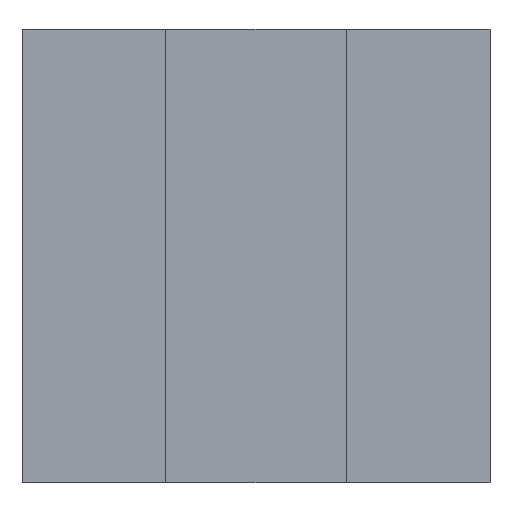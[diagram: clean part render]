
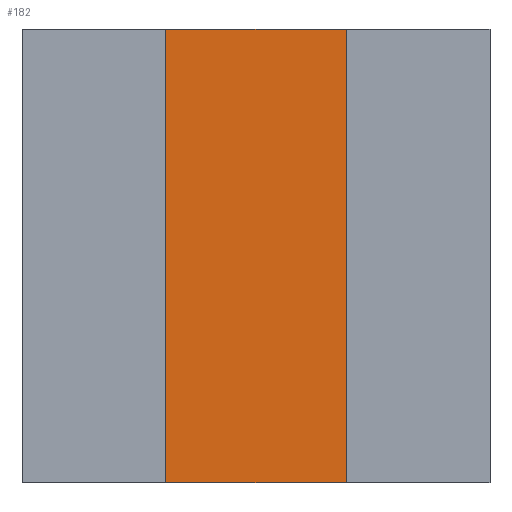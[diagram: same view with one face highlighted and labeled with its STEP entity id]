
A CAD part, top view. The second image highlights one B-rep face of the part: STEP entity #182.
In plain terms, the highlighted planar face has unit normal (0, 0, 1).
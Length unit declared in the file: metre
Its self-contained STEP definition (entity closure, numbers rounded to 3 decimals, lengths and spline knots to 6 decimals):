
#36=ORIENTED_EDGE('',*,*,#62,.F.);
#37=ORIENTED_EDGE('',*,*,#80,.T.);
#38=ORIENTED_EDGE('',*,*,#76,.T.);
#39=ORIENTED_EDGE('',*,*,#81,.F.);
#62=EDGE_CURVE('',#86,#87,#102,.T.);
#76=EDGE_CURVE('',#99,#98,#116,.T.);
#80=EDGE_CURVE('',#86,#99,#120,.T.);
#81=EDGE_CURVE('',#87,#98,#121,.T.);
#86=VERTEX_POINT('',#263);
#87=VERTEX_POINT('',#265);
#98=VERTEX_POINT('',#291);
#99=VERTEX_POINT('',#293);
#102=LINE('',#264,#126);
#116=LINE('',#292,#140);
#120=LINE('',#299,#144);
#121=LINE('',#300,#145);
#126=VECTOR('',#217,1.);
#140=VECTOR('',#235,1.);
#144=VECTOR('',#243,1.);
#145=VECTOR('',#244,1.);
#152=EDGE_LOOP('',(#36,#37,#38,#39));
#162=FACE_BOUND('',#152,.T.);
#172=PLANE('',#205);
#182=ADVANCED_FACE('',(#162),#172,.T.);
#205=AXIS2_PLACEMENT_3D('',#298,#241,#242);
#217=DIRECTION('',(1.,0.,0.));
#235=DIRECTION('',(1.,0.,0.));
#241=DIRECTION('',(0.,0.,1.));
#242=DIRECTION('',(1.,0.,0.));
#243=DIRECTION('',(0.,-1.,0.));
#244=DIRECTION('',(0.,-1.,0.));
#263=CARTESIAN_POINT('',(-0.015417,0.038754,0.03));
#264=CARTESIAN_POINT('',(0.,0.038754,0.03));
#265=CARTESIAN_POINT('',(0.015417,0.038754,0.03));
#291=CARTESIAN_POINT('',(0.015417,-0.038754,0.03));
#292=CARTESIAN_POINT('',(0.,-0.038754,0.03));
#293=CARTESIAN_POINT('',(-0.015417,-0.038754,0.03));
#298=CARTESIAN_POINT('',(0.,0.,0.03));
#299=CARTESIAN_POINT('',(-0.015417,0.,0.03));
#300=CARTESIAN_POINT('',(0.015417,0.,0.03));
